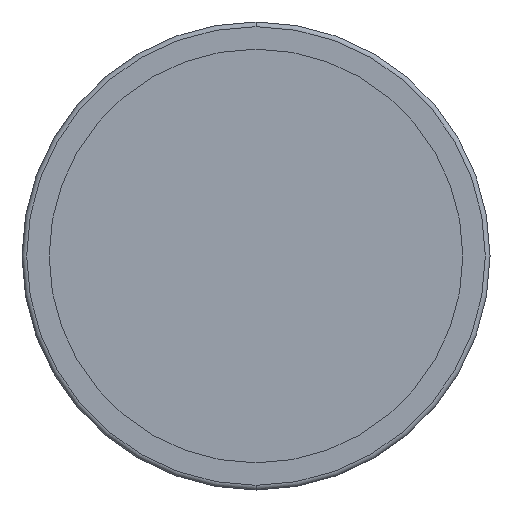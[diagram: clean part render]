
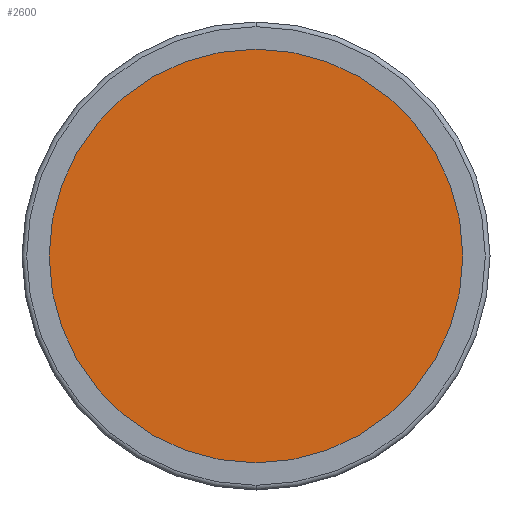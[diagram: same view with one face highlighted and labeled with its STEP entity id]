
A CAD part, front view. The second image highlights one B-rep face of the part: STEP entity #2600.
In plain terms, the highlighted planar face has unit normal (0, -1, 0).
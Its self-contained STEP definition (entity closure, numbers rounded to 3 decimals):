
#39 = DIRECTION ( 'NONE',  ( 0., 0., 1. ) ) ;
#269 = AXIS2_PLACEMENT_3D ( 'NONE', #2764, #801, #2533 ) ;
#710 = AXIS2_PLACEMENT_3D ( 'NONE', #1318, #1567, #39 ) ;
#801 = DIRECTION ( 'NONE',  ( 0., -1., 0. ) ) ;
#954 = EDGE_CURVE ( 'NONE', #2457, #2002, #3002, .T. ) ;
#1053 = FACE_OUTER_BOUND ( 'NONE', #2331, .T. ) ;
#1227 = CIRCLE ( 'NONE', #710, 43.75 ) ;
#1318 = CARTESIAN_POINT ( 'NONE',  ( 0., -3., 0. ) ) ;
#1446 = CARTESIAN_POINT ( 'NONE',  ( 0., -3., 0. ) ) ;
#1464 = CARTESIAN_POINT ( 'NONE',  ( 0., -3., 43.75 ) ) ;
#1567 = DIRECTION ( 'NONE',  ( 0., 1., 0. ) ) ;
#1577 = EDGE_CURVE ( 'NONE', #2002, #2457, #1227, .T. ) ;
#2002 = VERTEX_POINT ( 'NONE', #3045 ) ;
#2210 = DIRECTION ( 'NONE',  ( 0., 0., 1. ) ) ;
#2226 = PLANE ( 'NONE',  #269 ) ;
#2331 = EDGE_LOOP ( 'NONE', ( #2940, #3197 ) ) ;
#2457 = VERTEX_POINT ( 'NONE', #1464 ) ;
#2533 = DIRECTION ( 'NONE',  ( 0., 0., -1. ) ) ;
#2600 = ADVANCED_FACE ( 'NONE', ( #1053 ), #2226, .T. ) ;
#2646 = AXIS2_PLACEMENT_3D ( 'NONE', #1446, #2907, #2210 ) ;
#2764 = CARTESIAN_POINT ( 'NONE',  ( -43.75, -3., 0. ) ) ;
#2907 = DIRECTION ( 'NONE',  ( 0., 1., 0. ) ) ;
#2940 = ORIENTED_EDGE ( 'NONE', *, *, #954, .F. ) ;
#3002 = CIRCLE ( 'NONE', #2646, 43.75 ) ;
#3045 = CARTESIAN_POINT ( 'NONE',  ( 0., -3., -43.75 ) ) ;
#3197 = ORIENTED_EDGE ( 'NONE', *, *, #1577, .F. ) ;
